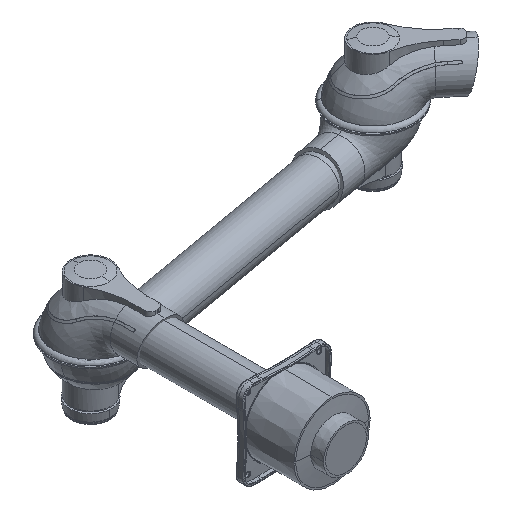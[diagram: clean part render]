
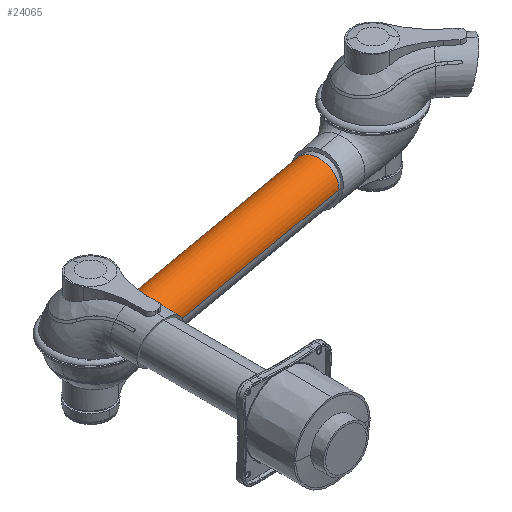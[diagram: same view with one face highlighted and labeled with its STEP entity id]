
A CAD part, isometric view. The second image highlights one B-rep face of the part: STEP entity #24065.
In plain terms, the highlighted cylindrical face has radius 26.3 mm (diameter 52.6 mm), a partial arc.
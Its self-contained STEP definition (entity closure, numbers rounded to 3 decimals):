
#23904=DIRECTION('',(-1.,0.,0.));
#23905=VECTOR('',#23904,303.307);
#23906=CARTESIAN_POINT('',(0.,26.3,0.));
#23907=LINE('',#23906,#23905);
#23911=CARTESIAN_POINT('',(-303.307,0.,0.));
#23912=DIRECTION('',(1.,0.,0.));
#23913=DIRECTION('',(0.,-1.,0.));
#23914=AXIS2_PLACEMENT_3D('',#23911,#23912,#23913);
#23919=DIRECTION('',(-1.,0.,0.));
#23920=VECTOR('',#23919,303.307);
#23921=CARTESIAN_POINT('',(0.,-26.3,0.));
#23922=LINE('',#23921,#23920);
#23926=CARTESIAN_POINT('',(0.,0.,0.));
#23927=DIRECTION('',(-1.,0.,0.));
#23928=DIRECTION('',(0.,1.,0.));
#23929=AXIS2_PLACEMENT_3D('',#23926,#23927,#23928);
#23996=CARTESIAN_POINT('',(0.,26.3,0.));
#23997=CARTESIAN_POINT('',(0.,-26.3,0.));
#23998=VERTEX_POINT('',#23996);
#23999=VERTEX_POINT('',#23997);
#24000=CARTESIAN_POINT('',(-303.307,26.3,0.));
#24001=VERTEX_POINT('',#24000);
#24002=CARTESIAN_POINT('',(-303.307,-26.3,0.));
#24003=VERTEX_POINT('',#24002);
#24053=CARTESIAN_POINT('',(-357.,0.,0.));
#24054=DIRECTION('',(1.,0.,0.));
#24055=DIRECTION('',(0.,-1.,0.));
#24056=AXIS2_PLACEMENT_3D('',#24053,#24054,#24055);
#24057=CYLINDRICAL_SURFACE('',#24056,26.3);
#24058=ORIENTED_EDGE('',*,*,#24036,.T.);
#24060=ORIENTED_EDGE('',*,*,#24059,.F.);
#24061=ORIENTED_EDGE('',*,*,#24039,.F.);
#24062=ORIENTED_EDGE('',*,*,#24019,.F.);
#24063=EDGE_LOOP('',(#24058,#24060,#24061,#24062));
#24064=FACE_OUTER_BOUND('',#24063,.F.);
#23915=CIRCLE('',#23914,26.3);
#23930=CIRCLE('',#23929,26.3);
#24019=EDGE_CURVE('',#23998,#23999,#23930,.T.);
#24036=EDGE_CURVE('',#23998,#24001,#23907,.T.);
#24039=EDGE_CURVE('',#23999,#24003,#23922,.T.);
#24059=EDGE_CURVE('',#24003,#24001,#23915,.T.);
#24065=ADVANCED_FACE('',(#24064),#24057,.T.);
